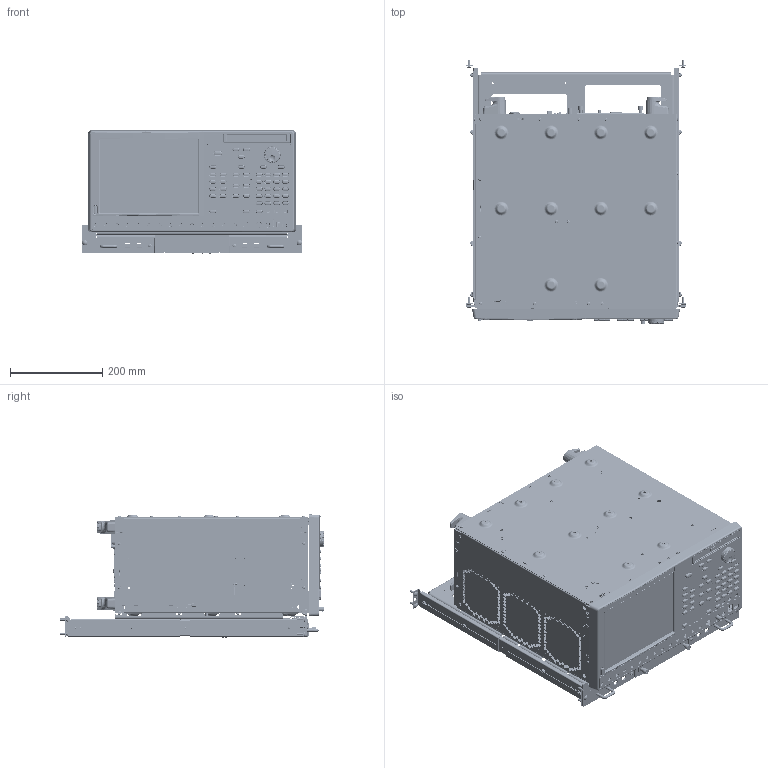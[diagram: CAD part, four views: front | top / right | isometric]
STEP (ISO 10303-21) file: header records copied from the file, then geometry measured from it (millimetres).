
FILE_DESCRIPTION((''),'2;1');
FILE_NAME('DESIGN_DAVIDSWA_KPL_ASM','2012-11-28T',('davidswa'),(''),'PRO/ENGINEER BY PARAMETRIC TECHNOLOGY CORPORATION, 2011490','PRO/ENGINEER BY PARAMETRIC TECHNOLOGY CORPORATION, 2011490','');
FILE_SCHEMA(('CONFIG_CONTROL_DESIGN'));
Length unit declared in the file: inch
Products named in the file (189): LOC_UATX_IO_TAPPEN_TMR; CHASSIS_AWG_IND; LKS-832-1; CLS-632-1; BSOS-632-28; BSOS-632-34; TSOS-632-437_IND; CHASSIS_AWG_IND_ASM; CHASSIS_REAR_SHN_AF0; SOSG-8632-10; CHASSIS_REAR_SHN_AF3_ASM; CHASSIS_FRONT_IND_AF0; SSA-156-16; BSOS-632-16; RAS-632-10_8; IS_SINGLE77-016; CHASSIS_FRONT_IND_ASM; RIVET_POP_PHX; CONTACT_ELEC_250X600_HPP; LABEL_MAC_ADRESS_IND; BRKT_IO_M-BRD_AIMB566_RR; BRACKET_ATX_GROUND_PYT; BRACKET_ATX_GROUND_PYT_ASM; RIVET_POP_R4386_HPP; BRKT_IO_M-BRD_AIMB566_RR_ASM; CHASSIS_MAIN_IND_ASM; HOLDER_CABLE_4PCS_IND; CONN_BNC_TO_PELTOLA_HD; CONE_SMA_01K1094_THIN_IND; CONE_PELTOLA_0774_0775_IND; CABLE_PELTOLA_70_IND; RELIEF_TUBE_IND; 174529400_ASM; CONE_SMA_3409771615P_IND; 174532300_ASM; NUT_BNC_VPI; CONN_BNC_WASHER_SRY_IND; SCREW_6-32X312_HPP; SCREW_FH_6-32X250_TX10_SS_LIB; CLAMP_CABLE-TIE_IND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
Assembly tree (622 placements, depth 10):
  DESIGN_DAVIDSWA_KPL_ASM
    MASTER_SHN_ASM
      MODULE_CHASSIS_IND_ASM
        CHASSIS_MAIN_IND_ASM
          LOC_UATX_IO_TAPPEN_TMR
          CHASSIS_AWG_IND_ASM
            CHASSIS_AWG_IND
            LKS-832-1  x2
            CLS-632-1  x30
            BSOS-632-28  x16
            BSOS-632-34  x10
            TSOS-632-437_IND  x28
          CHASSIS_REAR_SHN_AF3_ASM
            CHASSIS_REAR_SHN_AF0
            CLS-632-1  x25
            SOSG-8632-10
          CHASSIS_FRONT_IND_ASM
            CHASSIS_FRONT_IND_AF0
            CLS-632-1  x14
            SSA-156-16  x2
            BSOS-632-16
            RAS-632-10_8  x3
            IS_SINGLE77-016
          RIVET_POP_PHX  x32
          CONTACT_ELEC_250X600_HPP  x12
          LABEL_MAC_ADRESS_IND  x2
          BRKT_IO_M-BRD_AIMB566_RR_ASM
            BRKT_IO_M-BRD_AIMB566_RR
            CLS-632-1  x10
            BRACKET_ATX_GROUND_PYT_ASM  x4
              BRACKET_ATX_GROUND_PYT
              CONTACT_ELEC_250X600_HPP
            RIVET_POP_R4386_HPP  x8
        HOLDER_CABLE_4PCS_IND  x3
        CONN_BNC_TO_PELTOLA_HD  x3
        174529400_ASM  x2
          CONE_SMA_01K1094_THIN_IND
          CONE_PELTOLA_0774_0775_IND
          CABLE_PELTOLA_70_IND
          RELIEF_TUBE_IND
        174532300_ASM
          CONE_SMA_3409771615P_IND
        NUT_BNC_VPI  x2
        CONN_BNC_WASHER_SRY_IND
        SCREW_6-32X312_HPP  x17
        SCREW_FH_6-32X250_TX10_SS_LIB  x18
        CLAMP_CABLE-TIE_IND
        TIE_CABLE_LONG_IND  x2
        RICHCO_CLAMP_FCRCS-21B-4-01  x2
        RICHCO_COVER_FCRC-21C  x2
      MODULE_PROC_SHN_ASM
        PLATE_IO_REAR_IND_ASM
          PLATE_IO_REAR_IND
          BRACKET_MIO_PANEL_IND_NEW_ASM
            BRACKET_MIO_PANEL_IND
            CLS-632-1
          RIVET_POP_PHX  x2
        PCB_PCIF_MAIN_IND_ASM
          CONN_4X10_HDR_TH_F_RA_LIB
        174530700_ASM
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Bounding box: 479.15 x 574.47 x 267.41 mm (x, y, z)
Volume: 3400584.3 mm3; surface area: 3966424.9 mm2
Topology: 570 solids, 571 shells, 29516 faces, 74654 edges, 47479 vertices
Faces by surface type: plane 17067, cylinder 8078, cone 1949, torus 1236, bspline 1039, sphere 132, extrusion 12, revolution 3
Entity records: 595065 total; most frequent: CARTESIAN_POINT 129653, DIRECTION 95813, ORIENTED_EDGE 95256, EDGE_CURVE 47632, VECTOR 34232, LINE 34222, AXIS2_PLACEMENT_3D 30789, VERTEX_POINT 30229
